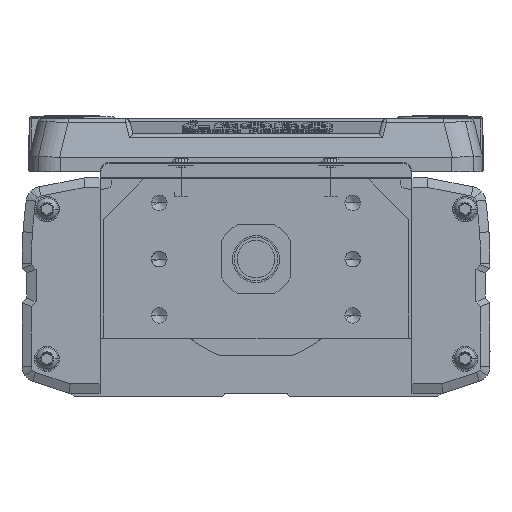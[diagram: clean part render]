
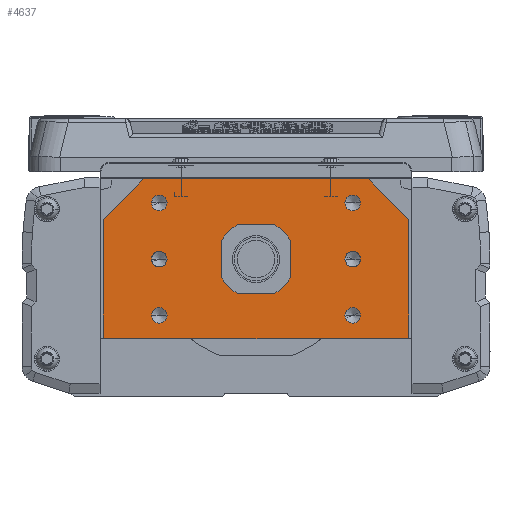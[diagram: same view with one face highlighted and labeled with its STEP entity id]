
A CAD part, left-side view. The second image highlights one B-rep face of the part: STEP entity #4637.
In plain terms, the highlighted planar face has unit normal (-1, 0, 0).
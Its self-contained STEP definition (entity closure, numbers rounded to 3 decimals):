
#4637=ADVANCED_FACE('',(#10323,#10324,#10325,#10326,#10327,#10328,#10329,#10330),#10331,.F.);
#10323=FACE_OUTER_BOUND('',#17810,.T.);
#10324=FACE_BOUND('',#17811,.T.);
#10325=FACE_BOUND('',#17812,.T.);
#10326=FACE_BOUND('',#17813,.T.);
#10327=FACE_BOUND('',#17814,.T.);
#10328=FACE_BOUND('',#17815,.T.);
#10329=FACE_BOUND('',#17816,.T.);
#10330=FACE_BOUND('',#17817,.T.);
#10331=PLANE('',#17818);
#17810=EDGE_LOOP('',(#31564,#31565,#31566,#31567,#31568,#31569,#31570,#31571));
#17811=EDGE_LOOP('',(#31572,#31573));
#17812=EDGE_LOOP('',(#31574,#31575));
#17813=EDGE_LOOP('',(#31576,#31577));
#17814=EDGE_LOOP('',(#31578,#31579));
#17815=EDGE_LOOP('',(#31580,#31581));
#17816=EDGE_LOOP('',(#31582,#31583));
#17817=EDGE_LOOP('',(#31584,#31585));
#17818=AXIS2_PLACEMENT_3D('',#31586,#31587,#31588);
#31564=ORIENTED_EDGE('',*,*,#42486,.F.);
#31565=ORIENTED_EDGE('',*,*,#46459,.F.);
#31566=ORIENTED_EDGE('',*,*,#46460,.F.);
#31567=ORIENTED_EDGE('',*,*,#46461,.F.);
#31568=ORIENTED_EDGE('',*,*,#43726,.F.);
#31569=ORIENTED_EDGE('',*,*,#42812,.F.);
#31570=ORIENTED_EDGE('',*,*,#46462,.F.);
#31571=ORIENTED_EDGE('',*,*,#46463,.F.);
#31572=ORIENTED_EDGE('',*,*,#46464,.T.);
#31573=ORIENTED_EDGE('',*,*,#46465,.T.);
#31574=ORIENTED_EDGE('',*,*,#46466,.T.);
#31575=ORIENTED_EDGE('',*,*,#42928,.T.);
#31576=ORIENTED_EDGE('',*,*,#44519,.T.);
#31577=ORIENTED_EDGE('',*,*,#46467,.T.);
#31578=ORIENTED_EDGE('',*,*,#45788,.T.);
#31579=ORIENTED_EDGE('',*,*,#46468,.T.);
#31580=ORIENTED_EDGE('',*,*,#42898,.T.);
#31581=ORIENTED_EDGE('',*,*,#46310,.T.);
#31582=ORIENTED_EDGE('',*,*,#46469,.T.);
#31583=ORIENTED_EDGE('',*,*,#46470,.T.);
#31584=ORIENTED_EDGE('',*,*,#46471,.F.);
#31585=ORIENTED_EDGE('',*,*,#43102,.F.);
#31586=CARTESIAN_POINT('',(0.,0.275,-2.548));
#31587=DIRECTION('',(1.0,0.,0.));
#31588=DIRECTION('',(0.,1.0,0.));
#42486=EDGE_CURVE('',#50905,#50906,#50907,.T.);
#42812=EDGE_CURVE('',#51480,#51483,#51484,.T.);
#42898=EDGE_CURVE('',#51626,#51628,#51630,.T.);
#42928=EDGE_CURVE('',#51680,#51678,#51681,.T.);
#43102=EDGE_CURVE('',#51968,#51971,#51972,.F.);
#43726=EDGE_CURVE('',#51483,#53027,#53028,.T.);
#44519=EDGE_CURVE('',#54275,#54279,#54281,.T.);
#45788=EDGE_CURVE('',#56185,#56189,#56191,.T.);
#46310=EDGE_CURVE('',#51628,#51626,#56890,.T.);
#46459=EDGE_CURVE('',#57084,#50905,#57085,.T.);
#46460=EDGE_CURVE('',#57086,#57084,#57087,.T.);
#46461=EDGE_CURVE('',#53027,#57086,#57088,.T.);
#46462=EDGE_CURVE('',#57089,#51480,#57090,.T.);
#46463=EDGE_CURVE('',#50906,#57089,#57091,.T.);
#46464=EDGE_CURVE('',#57092,#57093,#57094,.T.);
#46465=EDGE_CURVE('',#57093,#57092,#57095,.T.);
#46466=EDGE_CURVE('',#51678,#51680,#57096,.T.);
#46467=EDGE_CURVE('',#54279,#54275,#57097,.T.);
#46468=EDGE_CURVE('',#56189,#56185,#57098,.T.);
#46469=EDGE_CURVE('',#57099,#57100,#57101,.T.);
#46470=EDGE_CURVE('',#57100,#57099,#57102,.T.);
#46471=EDGE_CURVE('',#51971,#51968,#57103,.F.);
#50905=VERTEX_POINT('',#62735);
#50906=VERTEX_POINT('',#62736);
#50907=LINE('',#62737,#62738);
#51480=VERTEX_POINT('',#63548);
#51483=VERTEX_POINT('',#63552);
#51484=LINE('',#63553,#63554);
#51626=VERTEX_POINT('',#63739);
#51628=VERTEX_POINT('',#63742);
#51630=CIRCLE('',#63745,2.5);
#51678=VERTEX_POINT('',#63809);
#51680=VERTEX_POINT('',#63812);
#51681=CIRCLE('',#63813,2.5);
#51968=VERTEX_POINT('',#64249);
#51971=VERTEX_POINT('',#64253);
#51972=CIRCLE('',#64254,7.5);
#53027=VERTEX_POINT('',#65702);
#53028=LINE('',#65703,#65704);
#54275=VERTEX_POINT('',#67961);
#54279=VERTEX_POINT('',#67966);
#54281=CIRCLE('',#67969,2.5);
#56185=VERTEX_POINT('',#70788);
#56189=VERTEX_POINT('',#70793);
#56191=CIRCLE('',#70796,2.5);
#56890=CIRCLE('',#71802,2.5);
#57084=VERTEX_POINT('',#72121);
#57085=LINE('',#72122,#72123);
#57086=VERTEX_POINT('',#72124);
#57087=LINE('',#72125,#72126);
#57088=LINE('',#72127,#72128);
#57089=VERTEX_POINT('',#72129);
#57090=LINE('',#72130,#72131);
#57091=LINE('',#72132,#72133);
#57092=VERTEX_POINT('',#72134);
#57093=VERTEX_POINT('',#72135);
#57094=CIRCLE('',#72136,2.5);
#57095=CIRCLE('',#72137,2.5);
#57096=CIRCLE('',#72138,2.5);
#57097=CIRCLE('',#72139,2.5);
#57098=CIRCLE('',#72140,2.5);
#57099=VERTEX_POINT('',#72141);
#57100=VERTEX_POINT('',#72142);
#57101=CIRCLE('',#72143,2.5);
#57102=CIRCLE('',#72144,2.5);
#57103=CIRCLE('',#72145,7.5);
#62735=CARTESIAN_POINT('',(0.,49.,12.7));
#62736=CARTESIAN_POINT('',(0.,36.,25.7));
#62737=CARTESIAN_POINT('',(0.,37.381,24.319));
#62738=VECTOR('',#77929,10.);
#63548=CARTESIAN_POINT('',(0.,-49.,12.7));
#63552=CARTESIAN_POINT('',(0.,-49.,-25.));
#63553=CARTESIAN_POINT('',(0.,-49.,-14.));
#63554=VECTOR('',#78417,10.0);
#63739=CARTESIAN_POINT('',(0.,33.5,0.));
#63742=CARTESIAN_POINT('',(0.,28.5,0.));
#63745=AXIS2_PLACEMENT_3D('',#78535,#78536,#78537);
#63809=CARTESIAN_POINT('',(0.,-33.5,-18.));
#63812=CARTESIAN_POINT('',(0.,-28.5,-18.));
#63813=AXIS2_PLACEMENT_3D('',#78573,#78574,#78575);
#64249=CARTESIAN_POINT('',(0.,-7.5,0.));
#64253=CARTESIAN_POINT('',(0.,7.5,0.));
#64254=AXIS2_PLACEMENT_3D('',#78783,#78784,#78785);
#65702=CARTESIAN_POINT('',(0.,-48.5,-25.5));
#65703=CARTESIAN_POINT('',(0.,-49.,-25.));
#65704=VECTOR('',#79735,10.0);
#67961=CARTESIAN_POINT('',(0.,33.5,18.));
#67966=CARTESIAN_POINT('',(0.,28.5,18.));
#67969=AXIS2_PLACEMENT_3D('',#80845,#80846,#80847);
#70788=CARTESIAN_POINT('',(0.,-33.5,18.));
#70793=CARTESIAN_POINT('',(0.,-28.5,18.));
#70796=AXIS2_PLACEMENT_3D('',#82509,#82510,#82511);
#71802=AXIS2_PLACEMENT_3D('',#83144,#83145,#83146);
#72121=CARTESIAN_POINT('',(0.,49.,-25.));
#72122=CARTESIAN_POINT('',(0.,49.,-25.));
#72123=VECTOR('',#83309,10.0);
#72124=CARTESIAN_POINT('',(0.,48.5,-25.5));
#72125=CARTESIAN_POINT('',(0.,48.5,-25.5));
#72126=VECTOR('',#83310,10.0);
#72127=CARTESIAN_POINT('',(0.,0.,-25.5));
#72128=VECTOR('',#83311,10.0);
#72129=CARTESIAN_POINT('',(0.,-36.,25.7));
#72130=CARTESIAN_POINT('',(0.,-37.243,24.457));
#72131=VECTOR('',#83312,10.0);
#72132=CARTESIAN_POINT('',(0.,34.5,25.7));
#72133=VECTOR('',#83313,10.0);
#72134=CARTESIAN_POINT('',(0.,33.5,-18.));
#72135=CARTESIAN_POINT('',(0.,28.5,-18.));
#72136=AXIS2_PLACEMENT_3D('',#83314,#83315,#83316);
#72137=AXIS2_PLACEMENT_3D('',#83317,#83318,#83319);
#72138=AXIS2_PLACEMENT_3D('',#83320,#83321,#83322);
#72139=AXIS2_PLACEMENT_3D('',#83323,#83324,#83325);
#72140=AXIS2_PLACEMENT_3D('',#83326,#83327,#83328);
#72141=CARTESIAN_POINT('',(0.,-33.5,0.));
#72142=CARTESIAN_POINT('',(0.,-28.5,0.));
#72143=AXIS2_PLACEMENT_3D('',#83329,#83330,#83331);
#72144=AXIS2_PLACEMENT_3D('',#83332,#83333,#83334);
#72145=AXIS2_PLACEMENT_3D('',#83335,#83336,#83337);
#77929=DIRECTION('',(0.,-0.707,0.707));
#78417=DIRECTION('',(0.,0.,-1.0));
#78535=CARTESIAN_POINT('',(0.,31.,0.));
#78536=DIRECTION('',(1.0,0.,0.));
#78537=DIRECTION('',(0.,1.0,0.));
#78573=CARTESIAN_POINT('',(0.,-31.,-18.));
#78574=DIRECTION('',(1.0,0.,0.));
#78575=DIRECTION('',(0.,-1.0,0.));
#78783=CARTESIAN_POINT('',(0.,0.,0.));
#78784=DIRECTION('',(1.0,0.,0.));
#78785=DIRECTION('',(0.,-1.0,0.));
#79735=DIRECTION('',(0.,0.707,-0.707));
#80845=CARTESIAN_POINT('',(0.,31.,18.));
#80846=DIRECTION('',(1.0,0.,0.));
#80847=DIRECTION('',(0.,1.0,0.));
#82509=CARTESIAN_POINT('',(0.,-31.,18.));
#82510=DIRECTION('',(1.0,0.,0.));
#82511=DIRECTION('',(0.,-1.0,0.));
#83144=CARTESIAN_POINT('',(0.,31.,0.));
#83145=DIRECTION('',(1.0,0.,0.));
#83146=DIRECTION('',(0.,1.0,0.));
#83309=DIRECTION('',(0.,0.,1.0));
#83310=DIRECTION('',(0.,0.707,0.707));
#83311=DIRECTION('',(0.,1.0,0.));
#83312=DIRECTION('',(0.,-0.707,-0.707));
#83313=DIRECTION('',(0.,-1.0,0.));
#83314=CARTESIAN_POINT('',(0.,31.,-18.));
#83315=DIRECTION('',(1.0,0.,0.));
#83316=DIRECTION('',(0.,1.0,0.));
#83317=CARTESIAN_POINT('',(0.,31.,-18.));
#83318=DIRECTION('',(1.0,0.,0.));
#83319=DIRECTION('',(0.,1.0,0.));
#83320=CARTESIAN_POINT('',(0.,-31.,-18.));
#83321=DIRECTION('',(1.0,0.,0.));
#83322=DIRECTION('',(0.,-1.0,0.));
#83323=CARTESIAN_POINT('',(0.,31.,18.));
#83324=DIRECTION('',(1.0,0.,0.));
#83325=DIRECTION('',(0.,1.0,0.));
#83326=CARTESIAN_POINT('',(0.,-31.,18.));
#83327=DIRECTION('',(1.0,0.,0.));
#83328=DIRECTION('',(0.,-1.0,0.));
#83329=CARTESIAN_POINT('',(0.,-31.,0.));
#83330=DIRECTION('',(1.0,0.,0.));
#83331=DIRECTION('',(0.,-1.0,0.));
#83332=CARTESIAN_POINT('',(0.,-31.,0.));
#83333=DIRECTION('',(1.0,0.,0.));
#83334=DIRECTION('',(0.,-1.0,0.));
#83335=CARTESIAN_POINT('',(0.,0.,0.));
#83336=DIRECTION('',(1.0,0.,0.));
#83337=DIRECTION('',(0.,-1.0,0.));
